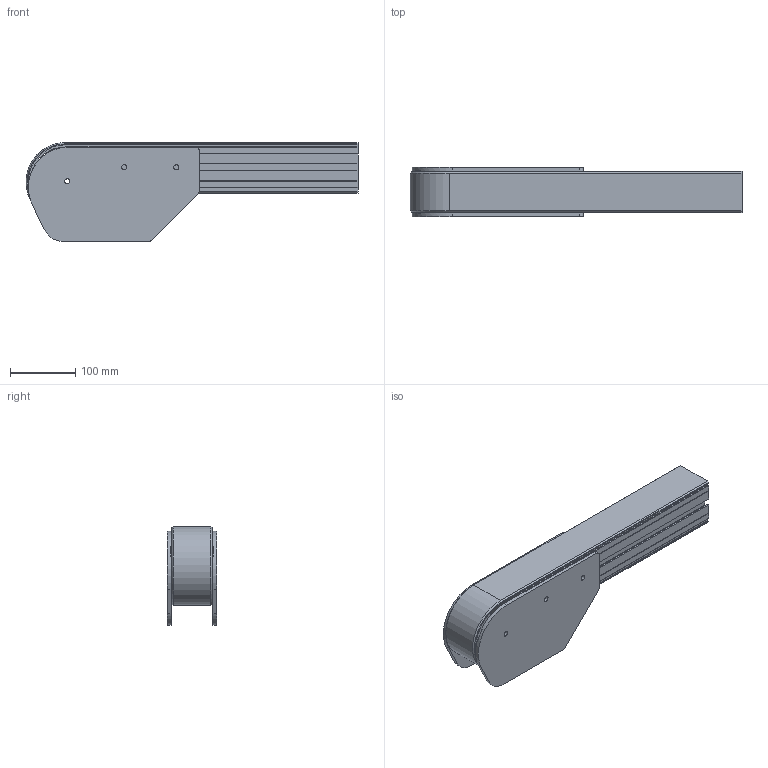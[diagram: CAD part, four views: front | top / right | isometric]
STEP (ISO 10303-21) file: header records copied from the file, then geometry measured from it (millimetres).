
FILE_DESCRIPTION((''),'2;1');
FILE_NAME('C:\Vault Klient\Projekt\Koncept konstruktion\Serie 620 Vändenhet\620-4000.stp','2009-12-01T07:58:29',('Mathias'),(''),'Autodesk Inventor 2010','Autodesk Inventor 2010','');
FILE_SCHEMA(('CONFIG_CONTROL_DESIGN'));
Length unit declared in the file: millimetre
Products named in the file (1): 620-4000
Bounding box: 509.98 x 76 x 152 mm (x, y, z)
Volume: 2444315.7 mm3; surface area: 317932.1 mm2
Topology: 1 solids, 1 shells, 113 faces, 349 edges, 224 vertices
Faces by surface type: plane 84, cylinder 25, cone 4
Full cylindrical faces by diameter (mm): 8 x6
Entity records: 4014 total; most frequent: ORIENTED_EDGE 686, CARTESIAN_POINT 681, DIRECTION 631, EDGE_CURVE 343, VECTOR 283, LINE 283, VERTEX_POINT 224, AXIS2_PLACEMENT_3D 174
